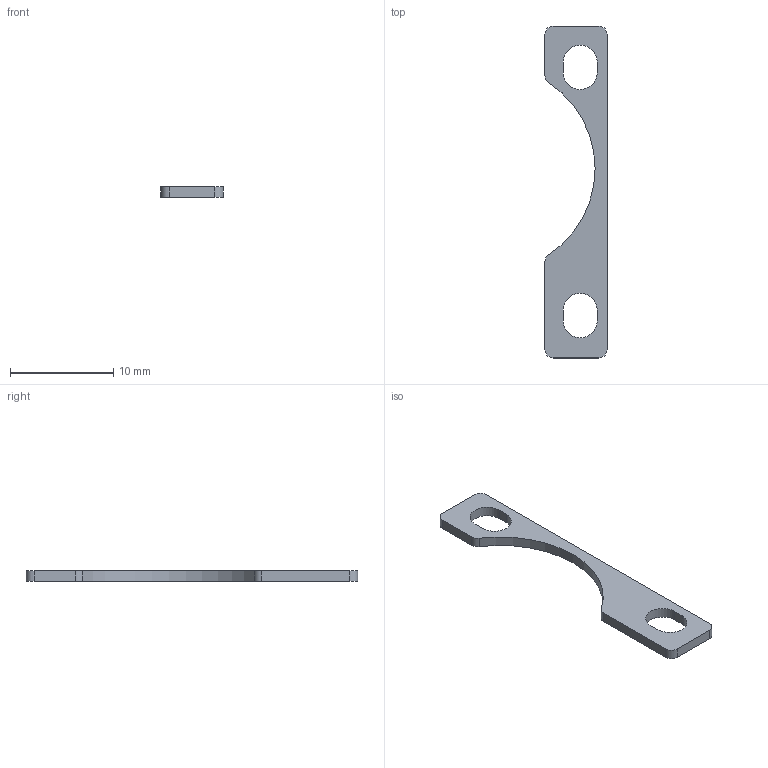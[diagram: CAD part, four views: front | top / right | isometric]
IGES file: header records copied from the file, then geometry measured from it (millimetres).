
Global section: file name: No Iges File Name specified; native system: Autodesk Inventor 2009; preprocessor: AutoDesk Inventor Iges Exporter R2009; author: Oliver Liedtke; date: 20110125.124421; units: millimetre
Bounding box: 6 x 32.1 x 1 mm (x, y, z)
Volume: 109.5 mm3; surface area: 321.8 mm2
Topology: 1 solids, 1 shells, 22 faces, 60 edges, 40 vertices
Faces by surface type: plane 11, cylinder 6, revolution 5
